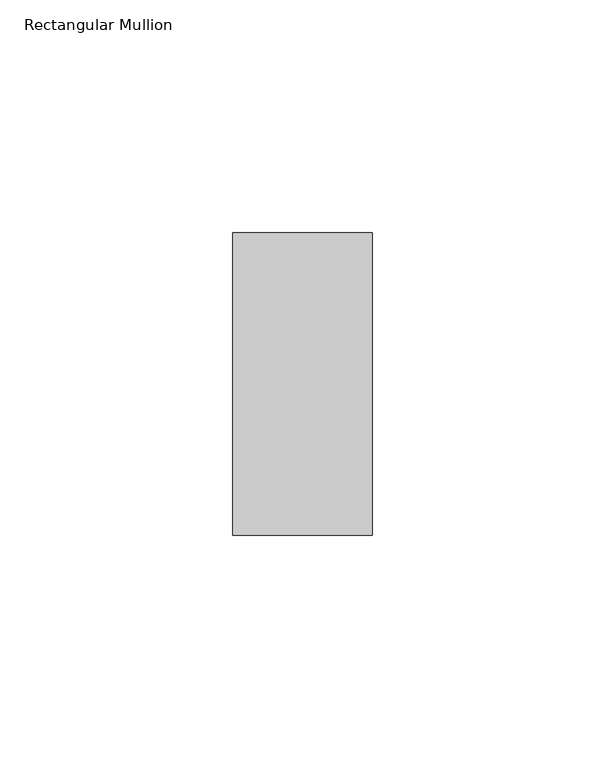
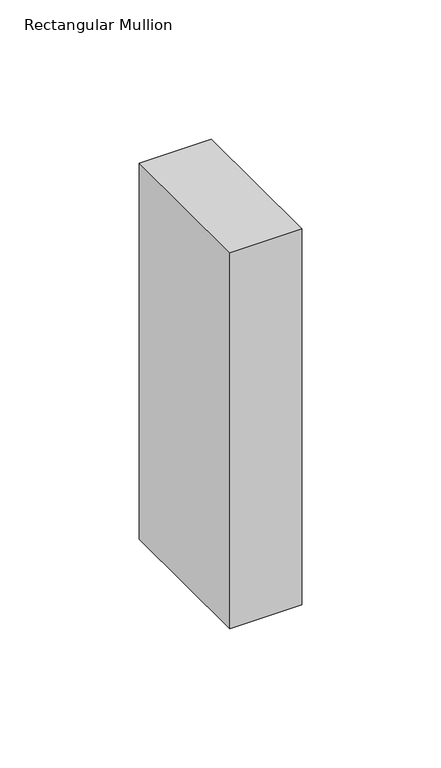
"""IFC4 building model written with IfcOpenShell, lengths in millimetres: member geometry, Rectangular Mullion : Batten_Timber_Modinex_Austratus_Grid_Fascia_30x65_AlaskanYellowCedar."""

from ifc_helpers import new_model, si_unit, frame, origin, place, context, project, spatial, polyline, outline, extrude, source, transform, mapped, element, save


def rectangular_mullion_df1dceeb(model_context):
    return source(origin(), model_context, "Body", "SweptSolid", [
        extrude(outline(polyline([(-30.0, 65.0), (0.0, 65.0), (0.0, 0.0), (-30.0, 0.0), (-30.0, 65.0)])), frame((0.0, 0.0, -165.0), z_axis=(0.0, 0.0, 1.0), x_axis=(1.0, 0.0, 0.0)), (0.0, 0.0, 1.0), 165.0),
    ])


if __name__ == "__main__":
    model = new_model("IFC4")
    model_context = context("Model", 3, world=origin())
    ifc_project = project(units=[si_unit("LENGTHUNIT", "METRE", prefix="MILLI")], contexts=[model_context])
    site = spatial("IfcSite", under=ifc_project)
    building = spatial("IfcBuilding", under=site)
    placement = place(None, origin())
    rectangular_mullion_shape = rectangular_mullion_df1dceeb(model_context)
    element("IfcMember", 1, ObjectType="Rectangular Mullion : Batten_Timber_Modinex_Austratus_Grid_Fascia_30x65_AlaskanYellowCedar", at=placement, inside=building, context=model_context, shape_type="MappedRepresentation", body=[
        mapped(rectangular_mullion_shape, transform((0.0, 0.0, 0.0), x_axis=(1.0, 0.0, 0.0), y_axis=(0.0, 1.0, 0.0), z_axis=(0.0, 0.0, 1.0))),
    ])
    save(model, "model.ifc")
